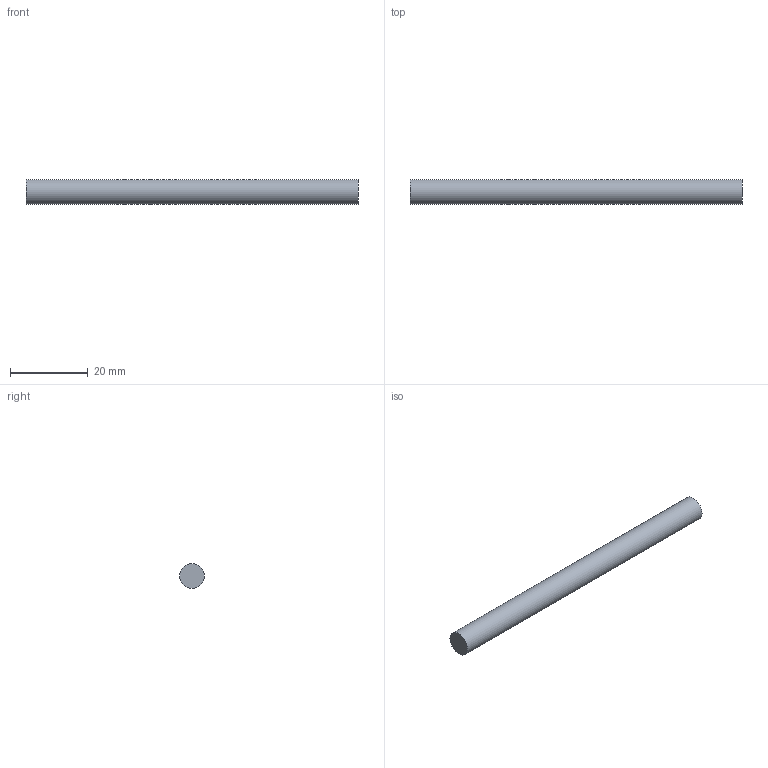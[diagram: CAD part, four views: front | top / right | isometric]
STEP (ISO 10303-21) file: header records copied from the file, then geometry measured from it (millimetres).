
FILE_DESCRIPTION(('Open CASCADE Model'),'2;1');
FILE_NAME('Open CASCADE Shape Model','2026-10-15T19:48:39',('Author'),( 'Open CASCADE'),'Open CASCADE STEP processor 7.9','Open CASCADE 7.9' ,'Unknown');
FILE_SCHEMA(('AUTOMOTIVE_DESIGN { 1 0 10303 214 1 1 1 1 }'));
Length unit declared in the file: millimetre
Products named in the file (1): Open CASCADE STEP translator 7.9 13
Bounding box: 85.5 x 6.35 x 6.35 mm (x, y, z)
Volume: 2707.7 mm3; surface area: 1769 mm2
Topology: 1 solids, 1 shells, 3 faces, 3 edges, 2 vertices
Faces by surface type: plane 2, cylinder 1
Full cylindrical faces by diameter (mm): 6.35 x1
Entity records: 108 total; most frequent: DIRECTION 19, CARTESIAN_POINT 15, AXIS2_PLACEMENT_3D 6, ORIENTED_EDGE 6, PCURVE 6, DEFINITIONAL_REPRESENTATION 6, LINE 5, VECTOR 5
